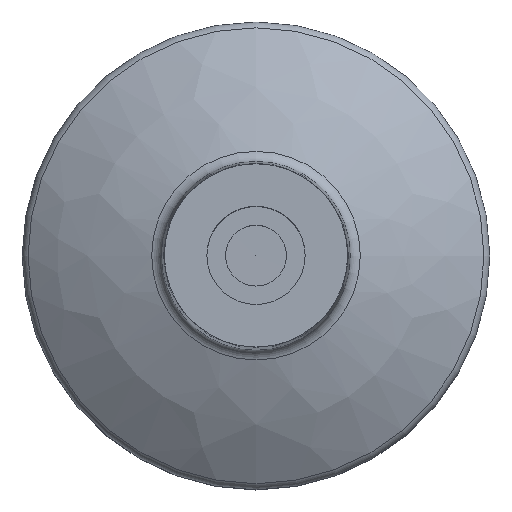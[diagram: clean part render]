
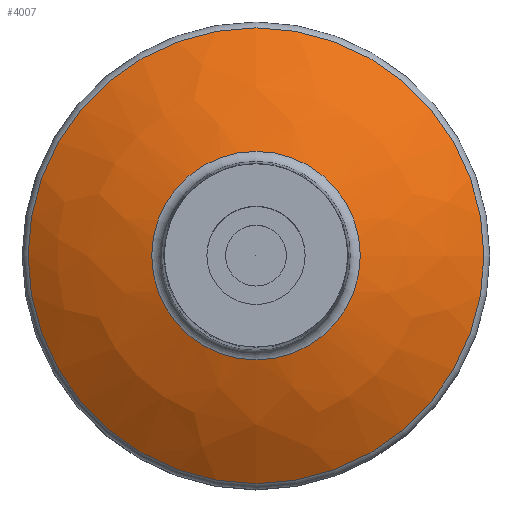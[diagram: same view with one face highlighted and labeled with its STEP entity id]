
A CAD part, top view. The second image highlights one B-rep face of the part: STEP entity #4007.
In plain terms, the highlighted free-form (B-spline) face has degree [2, 2] with [3, 9] control points.
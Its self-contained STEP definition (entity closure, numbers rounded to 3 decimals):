
#85=(
BOUNDED_CURVE()
B_SPLINE_CURVE(2,(#6802,#6803,#6804),.UNSPECIFIED.,.F.,.F.)
B_SPLINE_CURVE_WITH_KNOTS((3,3),(0.951,1.28),
 .UNSPECIFIED.)
CURVE()
GEOMETRIC_REPRESENTATION_ITEM()
RATIONAL_B_SPLINE_CURVE((1.,0.987,1.))
REPRESENTATION_ITEM('')
);
#452=(
BOUNDED_SURFACE()
B_SPLINE_SURFACE(2,2,((#6775,#6776,#6777,#6778,#6779,#6780,#6781,#6782,
#6783),(#6784,#6785,#6786,#6787,#6788,#6789,#6790,#6791,#6792),(#6793,#6794,
#6795,#6796,#6797,#6798,#6799,#6800,#6801)),.UNSPECIFIED.,.F.,.T.,.F.)
B_SPLINE_SURFACE_WITH_KNOTS((3,3),(3,2,2,2,3),(-1.28,-0.951),
(-3.142,-1.571,0.,1.571,3.142),
 .UNSPECIFIED.)
GEOMETRIC_REPRESENTATION_ITEM()
RATIONAL_B_SPLINE_SURFACE(((1.,0.707,1.,0.707,1.,
0.707,1.,0.707,1.),(0.987,0.698,
0.987,0.698,0.987,0.698,
0.987,0.698,0.987),(1.,0.707,
1.,0.707,1.,0.707,1.,0.707,1.)))
REPRESENTATION_ITEM('')
SURFACE()
);
#850=FACE_OUTER_BOUND('',#1081,.T.);
#1081=EDGE_LOOP('',(#2882,#2883,#2884,#2885,#2886,#2887));
#1319=CIRCLE('',#4304,24.371);
#1320=CIRCLE('',#4305,24.371);
#1323=CIRCLE('',#4310,11.148);
#1324=CIRCLE('',#4311,11.148);
#1603=VERTEX_POINT('',#6761);
#1604=VERTEX_POINT('',#6762);
#1607=VERTEX_POINT('',#6771);
#1608=VERTEX_POINT('',#6772);
#2081=EDGE_CURVE('',#1603,#1604,#1319,.T.);
#2082=EDGE_CURVE('',#1604,#1603,#1320,.T.);
#2085=EDGE_CURVE('',#1607,#1608,#1323,.T.);
#2086=EDGE_CURVE('',#1608,#1607,#1324,.T.);
#2087=EDGE_CURVE('',#1604,#1608,#85,.T.);
#2882=ORIENTED_EDGE('',*,*,#2081,.F.);
#2883=ORIENTED_EDGE('',*,*,#2082,.F.);
#2884=ORIENTED_EDGE('',*,*,#2087,.T.);
#2885=ORIENTED_EDGE('',*,*,#2086,.T.);
#2886=ORIENTED_EDGE('',*,*,#2085,.T.);
#2887=ORIENTED_EDGE('',*,*,#2087,.F.);
#4007=ADVANCED_FACE('',(#850),#452,.F.);
#4304=AXIS2_PLACEMENT_3D('',#6763,#4906,#4907);
#4305=AXIS2_PLACEMENT_3D('',#6764,#4908,#4909);
#4310=AXIS2_PLACEMENT_3D('',#6773,#4918,#4919);
#4311=AXIS2_PLACEMENT_3D('',#6774,#4920,#4921);
#4906=DIRECTION('center_axis',(0.,0.,-1.));
#4907=DIRECTION('ref_axis',(-1.,0.,0.));
#4908=DIRECTION('center_axis',(0.,0.,-1.));
#4909=DIRECTION('ref_axis',(-1.,0.,0.));
#4918=DIRECTION('center_axis',(0.,0.,-1.));
#4919=DIRECTION('ref_axis',(-1.,0.,0.));
#4920=DIRECTION('center_axis',(0.,0.,-1.));
#4921=DIRECTION('ref_axis',(-1.,0.,0.));
#6761=CARTESIAN_POINT('',(-24.371,0.,10.685));
#6762=CARTESIAN_POINT('',(24.371,0.,10.685));
#6763=CARTESIAN_POINT('Origin',(0.,0.,10.685));
#6764=CARTESIAN_POINT('Origin',(0.,0.,10.685));
#6771=CARTESIAN_POINT('',(-11.148,0.,17.164));
#6772=CARTESIAN_POINT('',(11.148,0.,17.164));
#6773=CARTESIAN_POINT('Origin',(0.,0.,17.164));
#6774=CARTESIAN_POINT('Origin',(0.,0.,17.164));
#6775=CARTESIAN_POINT('Ctrl Pts',(11.148,0.,
17.164));
#6776=CARTESIAN_POINT('Ctrl Pts',(11.148,-11.148,17.164));
#6777=CARTESIAN_POINT('Ctrl Pts',(0.,-11.148,
17.164));
#6778=CARTESIAN_POINT('Ctrl Pts',(-11.148,-11.148,17.164));
#6779=CARTESIAN_POINT('Ctrl Pts',(-11.148,0.,
17.164));
#6780=CARTESIAN_POINT('Ctrl Pts',(-11.148,11.148,17.164));
#6781=CARTESIAN_POINT('Ctrl Pts',(0.,11.148,
17.164));
#6782=CARTESIAN_POINT('Ctrl Pts',(11.148,11.148,17.164));
#6783=CARTESIAN_POINT('Ctrl Pts',(11.148,0.,
17.164));
#6784=CARTESIAN_POINT('Ctrl Pts',(18.297,0.,
15.021));
#6785=CARTESIAN_POINT('Ctrl Pts',(18.297,-18.297,15.021));
#6786=CARTESIAN_POINT('Ctrl Pts',(0.,-18.297,
15.021));
#6787=CARTESIAN_POINT('Ctrl Pts',(-18.297,-18.297,15.021));
#6788=CARTESIAN_POINT('Ctrl Pts',(-18.297,0.,
15.021));
#6789=CARTESIAN_POINT('Ctrl Pts',(-18.297,18.297,15.021));
#6790=CARTESIAN_POINT('Ctrl Pts',(0.,18.297,
15.021));
#6791=CARTESIAN_POINT('Ctrl Pts',(18.297,18.297,15.021));
#6792=CARTESIAN_POINT('Ctrl Pts',(18.297,0.,
15.021));
#6793=CARTESIAN_POINT('Ctrl Pts',(24.371,0.,
10.685));
#6794=CARTESIAN_POINT('Ctrl Pts',(24.371,-24.371,10.685));
#6795=CARTESIAN_POINT('Ctrl Pts',(0.,-24.371,
10.685));
#6796=CARTESIAN_POINT('Ctrl Pts',(-24.371,-24.371,10.685));
#6797=CARTESIAN_POINT('Ctrl Pts',(-24.371,0.,
10.685));
#6798=CARTESIAN_POINT('Ctrl Pts',(-24.371,24.371,10.685));
#6799=CARTESIAN_POINT('Ctrl Pts',(0.,24.371,
10.685));
#6800=CARTESIAN_POINT('Ctrl Pts',(24.371,24.371,10.685));
#6801=CARTESIAN_POINT('Ctrl Pts',(24.371,0.,
10.685));
#6802=CARTESIAN_POINT('Ctrl Pts',(24.371,0.,
10.685));
#6803=CARTESIAN_POINT('Ctrl Pts',(18.297,0.,
15.021));
#6804=CARTESIAN_POINT('Ctrl Pts',(11.148,0.,
17.164));
